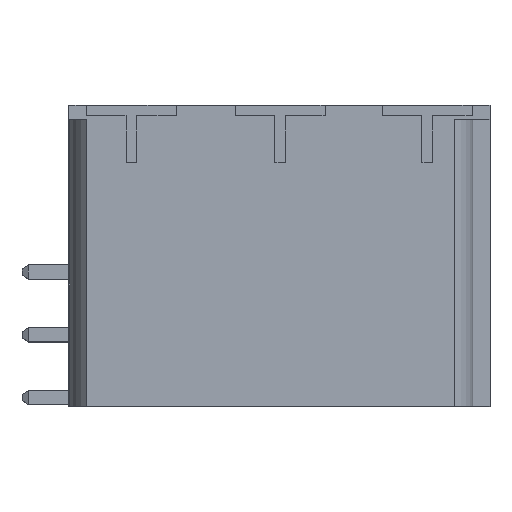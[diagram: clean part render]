
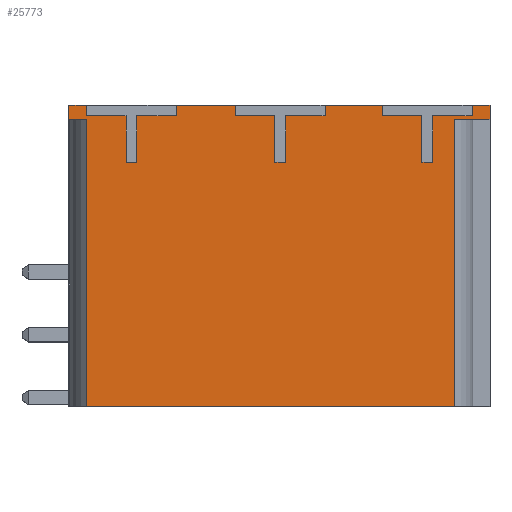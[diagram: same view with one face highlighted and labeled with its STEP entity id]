
A CAD part, top view. The second image highlights one B-rep face of the part: STEP entity #25773.
In plain terms, the highlighted planar face has unit normal (0, 0, 1).
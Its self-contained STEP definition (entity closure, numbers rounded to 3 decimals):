
#1547=DIRECTION('',(0.,1.,0.));
#1548=VECTOR('',#1547,0.8);
#1549=CARTESIAN_POINT('',(26.1,16.,-10.873));
#1550=LINE('',#1549,#1548);
#2493=DIRECTION('',(0.,-1.,0.));
#2494=VECTOR('',#2493,0.8);
#2495=CARTESIAN_POINT('',(2.6,16.8,-10.873));
#2496=LINE('',#2495,#2494);
#2506=DIRECTION('',(1.,0.,0.));
#2507=VECTOR('',#2506,1.);
#2508=CARTESIAN_POINT('',(2.6,16.,-10.873));
#2509=LINE('',#2508,#2507);
#2514=DIRECTION('',(0.,-1.,0.));
#2515=VECTOR('',#2514,16.);
#2516=CARTESIAN_POINT('',(3.6,16.,-10.873));
#2517=LINE('',#2516,#2515);
#2522=DIRECTION('',(1.,0.,0.));
#2523=VECTOR('',#2522,1.);
#2524=CARTESIAN_POINT('',(2.6,16.8,-10.873));
#2525=LINE('',#2524,#2523);
#2526=DIRECTION('',(1.,0.,0.));
#2527=VECTOR('',#2526,3.3);
#2528=CARTESIAN_POINT('',(8.6,16.8,-10.873));
#2529=LINE('',#2528,#2527);
#2530=DIRECTION('',(1.,0.,0.));
#2531=VECTOR('',#2530,3.2);
#2532=CARTESIAN_POINT('',(16.9,16.8,-10.873));
#2533=LINE('',#2532,#2531);
#2534=DIRECTION('',(1.,0.,0.));
#2535=VECTOR('',#2534,1.);
#2536=CARTESIAN_POINT('',(25.1,16.8,-10.873));
#2537=LINE('',#2536,#2535);
#2543=DIRECTION('',(1.,0.,0.));
#2544=VECTOR('',#2543,20.5);
#2545=CARTESIAN_POINT('',(3.6,0.,-10.873));
#2546=LINE('',#2545,#2544);
#7703=DIRECTION('',(0.,1.,0.));
#7704=VECTOR('',#7703,16.);
#7705=CARTESIAN_POINT('',(24.1,0.,-10.873));
#7706=LINE('',#7705,#7704);
#7707=DIRECTION('',(1.,0.,0.));
#7708=VECTOR('',#7707,2.);
#7709=CARTESIAN_POINT('',(24.1,16.,-10.873));
#7710=LINE('',#7709,#7708);
#8100=DIRECTION('',(0.,1.,0.));
#8101=VECTOR('',#8100,0.6);
#8102=CARTESIAN_POINT('',(3.6,16.2,-10.873));
#8103=LINE('',#8102,#8101);
#8116=DIRECTION('',(0.,-1.,0.));
#8117=VECTOR('',#8116,0.6);
#8118=CARTESIAN_POINT('',(8.6,16.8,-10.873));
#8119=LINE('',#8118,#8117);
#8128=DIRECTION('',(-1.,0.,0.));
#8129=VECTOR('',#8128,2.2);
#8130=CARTESIAN_POINT('',(8.6,16.2,-10.873));
#8131=LINE('',#8130,#8129);
#8140=DIRECTION('',(0.,-1.,0.));
#8141=VECTOR('',#8140,2.6);
#8142=CARTESIAN_POINT('',(6.4,16.2,-10.873));
#8143=LINE('',#8142,#8141);
#8152=DIRECTION('',(-1.,0.,0.));
#8153=VECTOR('',#8152,0.6);
#8154=CARTESIAN_POINT('',(6.4,13.6,-10.873));
#8155=LINE('',#8154,#8153);
#8164=DIRECTION('',(0.,1.,0.));
#8165=VECTOR('',#8164,2.6);
#8166=CARTESIAN_POINT('',(5.8,13.6,-10.873));
#8167=LINE('',#8166,#8165);
#8176=DIRECTION('',(-1.,0.,0.));
#8177=VECTOR('',#8176,2.2);
#8178=CARTESIAN_POINT('',(5.8,16.2,-10.873));
#8179=LINE('',#8178,#8177);
#8192=DIRECTION('',(0.,1.,0.));
#8193=VECTOR('',#8192,0.6);
#8194=CARTESIAN_POINT('',(11.9,16.2,-10.873));
#8195=LINE('',#8194,#8193);
#8208=DIRECTION('',(0.,-1.,0.));
#8209=VECTOR('',#8208,0.6);
#8210=CARTESIAN_POINT('',(16.9,16.8,-10.873));
#8211=LINE('',#8210,#8209);
#8220=DIRECTION('',(-1.,0.,0.));
#8221=VECTOR('',#8220,2.2);
#8222=CARTESIAN_POINT('',(16.9,16.2,-10.873));
#8223=LINE('',#8222,#8221);
#8232=DIRECTION('',(0.,-1.,0.));
#8233=VECTOR('',#8232,2.6);
#8234=CARTESIAN_POINT('',(14.7,16.2,-10.873));
#8235=LINE('',#8234,#8233);
#8244=DIRECTION('',(-1.,0.,0.));
#8245=VECTOR('',#8244,0.6);
#8246=CARTESIAN_POINT('',(14.7,13.6,-10.873));
#8247=LINE('',#8246,#8245);
#8256=DIRECTION('',(0.,1.,0.));
#8257=VECTOR('',#8256,2.6);
#8258=CARTESIAN_POINT('',(14.1,13.6,-10.873));
#8259=LINE('',#8258,#8257);
#8268=DIRECTION('',(-1.,0.,0.));
#8269=VECTOR('',#8268,2.2);
#8270=CARTESIAN_POINT('',(14.1,16.2,-10.873));
#8271=LINE('',#8270,#8269);
#8284=DIRECTION('',(0.,1.,0.));
#8285=VECTOR('',#8284,0.6);
#8286=CARTESIAN_POINT('',(20.1,16.2,-10.873));
#8287=LINE('',#8286,#8285);
#8300=DIRECTION('',(0.,-1.,0.));
#8301=VECTOR('',#8300,0.6);
#8302=CARTESIAN_POINT('',(25.1,16.8,-10.873));
#8303=LINE('',#8302,#8301);
#8312=DIRECTION('',(-1.,0.,0.));
#8313=VECTOR('',#8312,2.2);
#8314=CARTESIAN_POINT('',(25.1,16.2,-10.873));
#8315=LINE('',#8314,#8313);
#8324=DIRECTION('',(0.,-1.,0.));
#8325=VECTOR('',#8324,2.6);
#8326=CARTESIAN_POINT('',(22.9,16.2,-10.873));
#8327=LINE('',#8326,#8325);
#8336=DIRECTION('',(-1.,0.,0.));
#8337=VECTOR('',#8336,0.6);
#8338=CARTESIAN_POINT('',(22.9,13.6,-10.873));
#8339=LINE('',#8338,#8337);
#8348=DIRECTION('',(0.,1.,0.));
#8349=VECTOR('',#8348,2.6);
#8350=CARTESIAN_POINT('',(22.3,13.6,-10.873));
#8351=LINE('',#8350,#8349);
#8360=DIRECTION('',(-1.,0.,0.));
#8361=VECTOR('',#8360,2.2);
#8362=CARTESIAN_POINT('',(22.3,16.2,-10.873));
#8363=LINE('',#8362,#8361);
#16878=CARTESIAN_POINT('',(26.1,16.8,-10.873));
#16879=VERTEX_POINT('',#16878);
#16880=CARTESIAN_POINT('',(25.1,16.8,-10.873));
#16881=VERTEX_POINT('',#16880);
#16886=CARTESIAN_POINT('',(20.1,16.8,-10.873));
#16887=VERTEX_POINT('',#16886);
#16888=CARTESIAN_POINT('',(16.9,16.8,-10.873));
#16889=VERTEX_POINT('',#16888);
#16894=CARTESIAN_POINT('',(11.9,16.8,-10.873));
#16895=VERTEX_POINT('',#16894);
#16896=CARTESIAN_POINT('',(8.6,16.8,-10.873));
#16897=VERTEX_POINT('',#16896);
#16902=CARTESIAN_POINT('',(3.6,16.8,-10.873));
#16903=VERTEX_POINT('',#16902);
#16904=CARTESIAN_POINT('',(2.6,16.8,-10.873));
#16905=VERTEX_POINT('',#16904);
#17552=CARTESIAN_POINT('',(26.1,16.,-10.873));
#17553=VERTEX_POINT('',#17552);
#17711=CARTESIAN_POINT('',(2.6,16.,-10.873));
#17713=VERTEX_POINT('',#17711);
#17719=CARTESIAN_POINT('',(3.6,16.,-10.873));
#17721=VERTEX_POINT('',#17719);
#17724=CARTESIAN_POINT('',(3.6,0.,-10.873));
#17725=VERTEX_POINT('',#17724);
#17728=CARTESIAN_POINT('',(24.1,0.,-10.873));
#17729=VERTEX_POINT('',#17728);
#17730=CARTESIAN_POINT('',(3.6,16.2,-10.873));
#17731=VERTEX_POINT('',#17730);
#17732=CARTESIAN_POINT('',(5.8,16.2,-10.873));
#17733=VERTEX_POINT('',#17732);
#17734=CARTESIAN_POINT('',(5.8,13.6,-10.873));
#17735=VERTEX_POINT('',#17734);
#17736=CARTESIAN_POINT('',(6.4,13.6,-10.873));
#17737=VERTEX_POINT('',#17736);
#17738=CARTESIAN_POINT('',(6.4,16.2,-10.873));
#17739=VERTEX_POINT('',#17738);
#17740=CARTESIAN_POINT('',(8.6,16.2,-10.873));
#17741=VERTEX_POINT('',#17740);
#17742=CARTESIAN_POINT('',(11.9,16.2,-10.873));
#17743=VERTEX_POINT('',#17742);
#17744=CARTESIAN_POINT('',(14.1,16.2,-10.873));
#17745=VERTEX_POINT('',#17744);
#17746=CARTESIAN_POINT('',(14.1,13.6,-10.873));
#17747=VERTEX_POINT('',#17746);
#17748=CARTESIAN_POINT('',(14.7,13.6,-10.873));
#17749=VERTEX_POINT('',#17748);
#17750=CARTESIAN_POINT('',(14.7,16.2,-10.873));
#17751=VERTEX_POINT('',#17750);
#17752=CARTESIAN_POINT('',(16.9,16.2,-10.873));
#17753=VERTEX_POINT('',#17752);
#17754=CARTESIAN_POINT('',(20.1,16.2,-10.873));
#17755=VERTEX_POINT('',#17754);
#17756=CARTESIAN_POINT('',(22.3,16.2,-10.873));
#17757=VERTEX_POINT('',#17756);
#17758=CARTESIAN_POINT('',(22.3,13.6,-10.873));
#17759=VERTEX_POINT('',#17758);
#17760=CARTESIAN_POINT('',(22.9,13.6,-10.873));
#17761=VERTEX_POINT('',#17760);
#17762=CARTESIAN_POINT('',(22.9,16.2,-10.873));
#17763=VERTEX_POINT('',#17762);
#17764=CARTESIAN_POINT('',(25.1,16.2,-10.873));
#17765=VERTEX_POINT('',#17764);
#17766=CARTESIAN_POINT('',(24.1,16.,-10.873));
#17767=VERTEX_POINT('',#17766);
#25710=CARTESIAN_POINT('',(14.35,8.4,-10.873));
#25711=DIRECTION('',(0.,0.,1.));
#25712=DIRECTION('',(0.,1.,0.));
#25713=AXIS2_PLACEMENT_3D('',#25710,#25711,#25712);
#25714=PLANE('',#25713);
#25716=ORIENTED_EDGE('',*,*,#25715,.F.);
#25717=ORIENTED_EDGE('',*,*,#25701,.F.);
#25718=ORIENTED_EDGE('',*,*,#25690,.F.);
#25719=ORIENTED_EDGE('',*,*,#25673,.F.);
#25720=ORIENTED_EDGE('',*,*,#23091,.T.);
#25722=ORIENTED_EDGE('',*,*,#25721,.F.);
#25724=ORIENTED_EDGE('',*,*,#25723,.F.);
#25726=ORIENTED_EDGE('',*,*,#25725,.F.);
#25728=ORIENTED_EDGE('',*,*,#25727,.F.);
#25730=ORIENTED_EDGE('',*,*,#25729,.F.);
#25732=ORIENTED_EDGE('',*,*,#25731,.F.);
#25734=ORIENTED_EDGE('',*,*,#25733,.F.);
#25735=ORIENTED_EDGE('',*,*,#23083,.T.);
#25737=ORIENTED_EDGE('',*,*,#25736,.F.);
#25739=ORIENTED_EDGE('',*,*,#25738,.F.);
#25741=ORIENTED_EDGE('',*,*,#25740,.F.);
#25743=ORIENTED_EDGE('',*,*,#25742,.F.);
#25745=ORIENTED_EDGE('',*,*,#25744,.F.);
#25747=ORIENTED_EDGE('',*,*,#25746,.F.);
#25749=ORIENTED_EDGE('',*,*,#25748,.F.);
#25750=ORIENTED_EDGE('',*,*,#23075,.T.);
#25752=ORIENTED_EDGE('',*,*,#25751,.F.);
#25754=ORIENTED_EDGE('',*,*,#25753,.F.);
#25756=ORIENTED_EDGE('',*,*,#25755,.F.);
#25758=ORIENTED_EDGE('',*,*,#25757,.F.);
#25760=ORIENTED_EDGE('',*,*,#25759,.F.);
#25762=ORIENTED_EDGE('',*,*,#25761,.F.);
#25764=ORIENTED_EDGE('',*,*,#25763,.F.);
#25765=ORIENTED_EDGE('',*,*,#23067,.T.);
#25766=ORIENTED_EDGE('',*,*,#23799,.F.);
#25768=ORIENTED_EDGE('',*,*,#25767,.F.);
#25770=ORIENTED_EDGE('',*,*,#25769,.F.);
#25771=EDGE_LOOP('',(#25716,#25717,#25718,#25719,#25720,#25722,#25724,#25726,
#25728,#25730,#25732,#25734,#25735,#25737,#25739,#25741,#25743,#25745,#25747,
#25749,#25750,#25752,#25754,#25756,#25758,#25760,#25762,#25764,#25765,#25766,
#25768,#25770));
#25772=FACE_OUTER_BOUND('',#25771,.F.);
#25773=ADVANCED_FACE('',(#25772),#25714,.T.);
#23067=EDGE_CURVE('',#16881,#16879,#2537,.T.);
#23075=EDGE_CURVE('',#16889,#16887,#2533,.T.);
#23083=EDGE_CURVE('',#16897,#16895,#2529,.T.);
#23091=EDGE_CURVE('',#16905,#16903,#2525,.T.);
#23799=EDGE_CURVE('',#17553,#16879,#1550,.T.);
#25673=EDGE_CURVE('',#16905,#17713,#2496,.T.);
#25690=EDGE_CURVE('',#17713,#17721,#2509,.T.);
#25701=EDGE_CURVE('',#17721,#17725,#2517,.T.);
#25715=EDGE_CURVE('',#17725,#17729,#2546,.T.);
#25721=EDGE_CURVE('',#17731,#16903,#8103,.T.);
#25723=EDGE_CURVE('',#17733,#17731,#8179,.T.);
#25725=EDGE_CURVE('',#17735,#17733,#8167,.T.);
#25727=EDGE_CURVE('',#17737,#17735,#8155,.T.);
#25729=EDGE_CURVE('',#17739,#17737,#8143,.T.);
#25731=EDGE_CURVE('',#17741,#17739,#8131,.T.);
#25733=EDGE_CURVE('',#16897,#17741,#8119,.T.);
#25736=EDGE_CURVE('',#17743,#16895,#8195,.T.);
#25738=EDGE_CURVE('',#17745,#17743,#8271,.T.);
#25740=EDGE_CURVE('',#17747,#17745,#8259,.T.);
#25742=EDGE_CURVE('',#17749,#17747,#8247,.T.);
#25744=EDGE_CURVE('',#17751,#17749,#8235,.T.);
#25746=EDGE_CURVE('',#17753,#17751,#8223,.T.);
#25748=EDGE_CURVE('',#16889,#17753,#8211,.T.);
#25751=EDGE_CURVE('',#17755,#16887,#8287,.T.);
#25753=EDGE_CURVE('',#17757,#17755,#8363,.T.);
#25755=EDGE_CURVE('',#17759,#17757,#8351,.T.);
#25757=EDGE_CURVE('',#17761,#17759,#8339,.T.);
#25759=EDGE_CURVE('',#17763,#17761,#8327,.T.);
#25761=EDGE_CURVE('',#17765,#17763,#8315,.T.);
#25763=EDGE_CURVE('',#16881,#17765,#8303,.T.);
#25767=EDGE_CURVE('',#17767,#17553,#7710,.T.);
#25769=EDGE_CURVE('',#17729,#17767,#7706,.T.);
